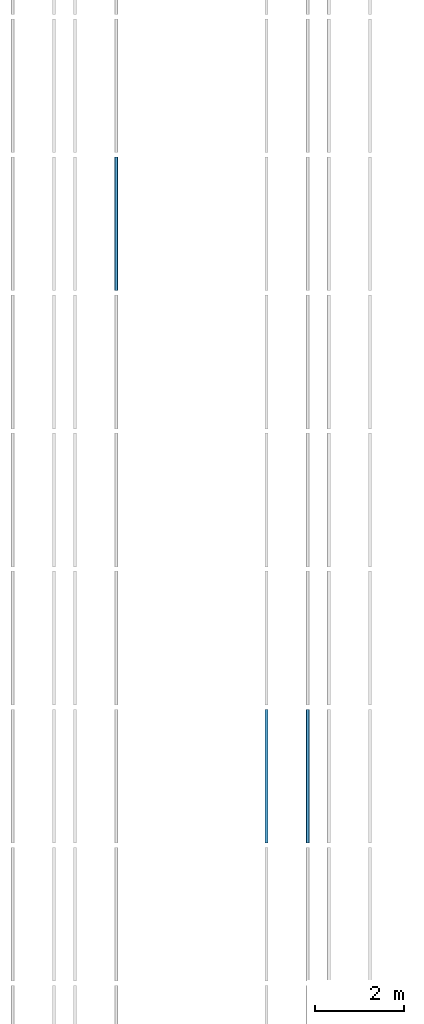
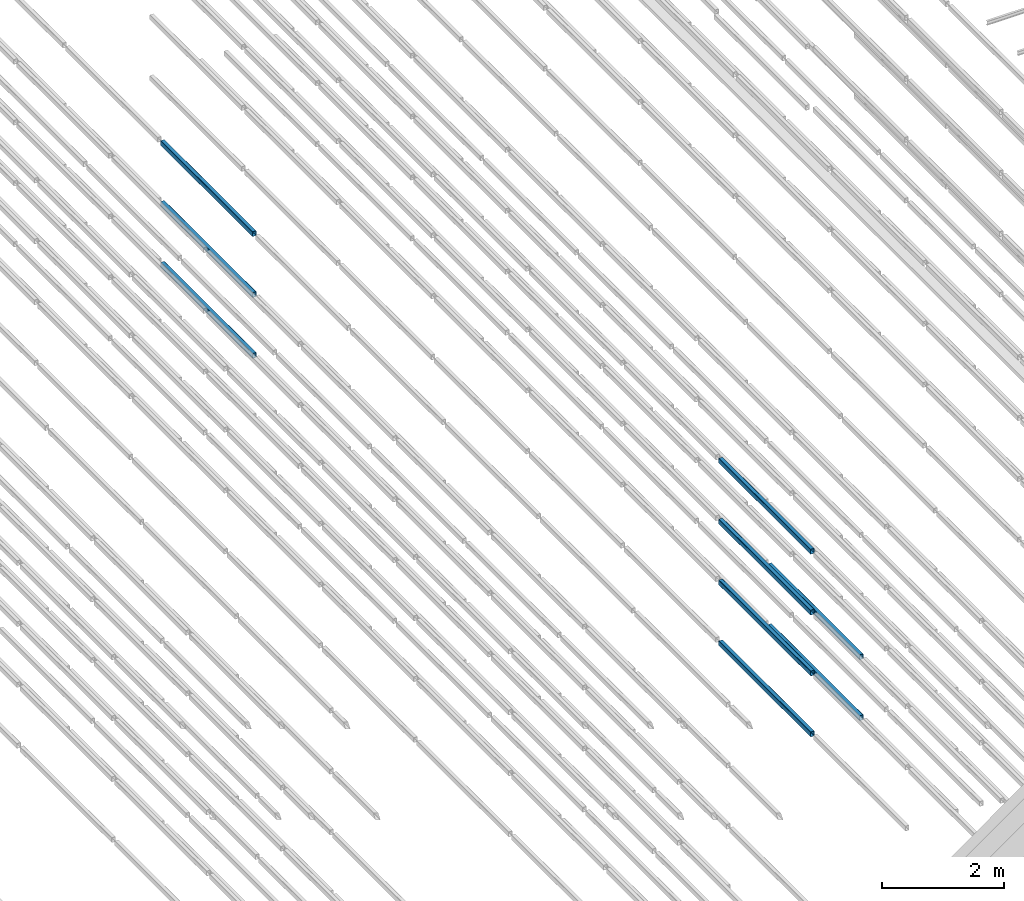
# One storey, part 68 of 290: 9 beams.
"""IFC2X3 building model written with IfcOpenShell, lengths in metres."""

from ifc_helpers import new_model, entity, si_unit, converted_unit, derived_unit, direction, frame, frame_2d, origin, place, context, subcontext, project, spatial, polyline, circle_curve, parameter, trimmed, segment, composite_curve, outline, extrude, material, type_object, element, save


model = new_model("IFC2X3")

# Units and contexts
model_context = context("Model", 3, precision=1e-05, world=origin(), true_north=direction((6.12303176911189e-17, 1.0)))
body_context = subcontext(model_context, "Body", "Model", "MODEL_VIEW")
ifc_project = project(units=[si_unit("LENGTHUNIT", "METRE"), si_unit("AREAUNIT", "SQUARE_METRE"), si_unit("VOLUMEUNIT", "CUBIC_METRE"), converted_unit("PLANEANGLEUNIT", "DEGREE", entity("IfcRatioMeasure", 0.0174532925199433), si_unit("PLANEANGLEUNIT", "RADIAN"), dimensions=[0, 0, 0, 0, 0, 0, 0]), si_unit("MASSUNIT", "GRAM", prefix="KILO"), derived_unit("MASSDENSITYUNIT", [(si_unit("MASSUNIT", "GRAM", prefix="KILO"), 1), (si_unit("LENGTHUNIT", "METRE"), -3)]), derived_unit("MOMENTOFINERTIAUNIT", [(si_unit("LENGTHUNIT", "METRE"), 4)]), si_unit("TIMEUNIT", "SECOND"), si_unit("FREQUENCYUNIT", "HERTZ"), si_unit("THERMODYNAMICTEMPERATUREUNIT", "DEGREE_CELSIUS"), derived_unit("THERMALTRANSMITTANCEUNIT", [(si_unit("MASSUNIT", "GRAM", prefix="KILO"), 1), (si_unit("THERMODYNAMICTEMPERATUREUNIT", "KELVIN"), -1), (si_unit("TIMEUNIT", "SECOND"), -3)]), derived_unit("VOLUMETRICFLOWRATEUNIT", [(si_unit("LENGTHUNIT", "METRE"), 3), (si_unit("TIMEUNIT", "SECOND"), -1)]), si_unit("ELECTRICCURRENTUNIT", "AMPERE"), si_unit("ELECTRICVOLTAGEUNIT", "VOLT"), si_unit("POWERUNIT", "WATT"), si_unit("FORCEUNIT", "NEWTON", prefix="KILO"), si_unit("ILLUMINANCEUNIT", "LUX"), si_unit("LUMINOUSFLUXUNIT", "LUMEN"), si_unit("LUMINOUSINTENSITYUNIT", "CANDELA"), derived_unit("USERDEFINED", [(si_unit("MASSUNIT", "GRAM", prefix="KILO"), -1), (si_unit("LENGTHUNIT", "METRE"), -2), (si_unit("TIMEUNIT", "SECOND"), 3), (si_unit("LUMINOUSFLUXUNIT", "LUMEN"), 1)]), derived_unit("LINEARVELOCITYUNIT", [(si_unit("LENGTHUNIT", "METRE"), 1), (si_unit("TIMEUNIT", "SECOND"), -1)]), si_unit("PRESSUREUNIT", "PASCAL"), derived_unit("USERDEFINED", [(si_unit("LENGTHUNIT", "METRE"), -2), (si_unit("MASSUNIT", "GRAM", prefix="KILO"), 1), (si_unit("TIMEUNIT", "SECOND"), -2)]), derived_unit("LINEARFORCEUNIT", [(si_unit("MASSUNIT", "GRAM", prefix="KILO"), 1), (si_unit("LENGTHUNIT", "METRE"), 1), (si_unit("TIMEUNIT", "SECOND"), -2), (si_unit("LENGTHUNIT", "METRE"), -1)]), derived_unit("PLANARFORCEUNIT", [(si_unit("MASSUNIT", "GRAM", prefix="KILO"), 1), (si_unit("LENGTHUNIT", "METRE"), 1), (si_unit("TIMEUNIT", "SECOND"), -2), (si_unit("LENGTHUNIT", "METRE"), -2)])], contexts=[model_context])

# Site, building, storey
site_placement = place(None, origin())
site = spatial("IfcSite", under=ifc_project, at=site_placement, Name="Default", CompositionType="ELEMENT")
building_placement = place(site_placement, origin())
building = spatial("IfcBuilding", under=site, at=building_placement, CompositionType="ELEMENT")
storey_placement = place(building_placement, frame((0.0, 0.0, 4.0)))
storey = spatial("IfcBuildingStorey", under=building, at=storey_placement, Name="01_OG", CompositionType="ELEMENT", Elevation=4.0)

# Beams
ifc_material = material(Name="Metall - Baustahl S235 blau")
beam_type = type_object("IfcBeamType", Name="RHS Träger (EN 10219-2):RHS 100 x 75 x 5", PredefinedType="NOTDEFINED")
beam_1_placement = place(storey_placement, frame((-185.015111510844, 30.248088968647, -1.2), z_axis=(0.0, 0.0, 1.0), x_axis=(0.0, 1.0, 0.0)))
element("IfcBeam", 1, at=beam_1_placement, inside=storey, type_object=beam_type, material=ifc_material, Name="RHS Träger (EN 10219-2):RHS 100 x 75 x 5", ObjectType="RHS Träger (EN 10219-2):RHS 100 x 75 x 5", context=body_context, shape_type="SweptSolid", body=[
    extrude(outline(composite_curve([segment(trimmed(circle_curve(frame_2d((-0.0274999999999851, -0.0400000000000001), x_axis=(1.0, 0.0)), 0.01), [parameter(180.0)], [parameter(270.0)], True, "PARAMETER"), True, "CONTINUOUS"), segment(polyline([(-0.0274999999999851, -0.05), (0.0274999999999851, -0.05)]), True, "CONTINUOUS"), segment(trimmed(circle_curve(frame_2d((0.0274999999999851, -0.0400000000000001), x_axis=(1.0, 0.0)), 0.01), [parameter(270.0)], [parameter(5.08888749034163e-14)], True, "PARAMETER"), True, "CONTINUOUS"), segment(polyline([(0.0375000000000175, -0.0400000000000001), (0.0375000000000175, 0.0400000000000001)]), True, "CONTINUOUS"), segment(trimmed(circle_curve(frame_2d((0.0274999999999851, 0.0400000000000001), x_axis=(1.0, 0.0)), 0.01), [parameter(360.0)], [parameter(89.9999999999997)], True, "PARAMETER"), True, "CONTINUOUS"), segment(polyline([(0.0274999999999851, 0.05), (-0.0274999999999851, 0.05)]), True, "CONTINUOUS"), segment(trimmed(circle_curve(frame_2d((-0.0274999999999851, 0.0400000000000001), x_axis=(1.0, 0.0)), 0.01), [parameter(90.0000000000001)], [parameter(180.0)], True, "PARAMETER"), True, "CONTINUOUS"), segment(polyline([(-0.0374999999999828, 0.0400000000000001), (-0.0374999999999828, -0.0400000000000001)]), True, "CONTINUOUS")], self_intersect=False), holes=[composite_curve([segment(polyline([(0.0274999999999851, -0.0450000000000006), (-0.0274999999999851, -0.0450000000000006)]), True, "CONTINUOUS"), segment(trimmed(circle_curve(frame_2d((-0.0274999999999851, -0.0400000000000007), x_axis=(1.0, 0.0)), 0.005), [parameter(180.0)], [parameter(270.0)], True, "PARAMETER"), False, "CONTINUOUS"), segment(polyline([(-0.0325000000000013, -0.0400000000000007), (-0.0325000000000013, 0.039999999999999)]), True, "CONTINUOUS"), segment(trimmed(circle_curve(frame_2d((-0.0274999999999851, 0.039999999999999), x_axis=(1.0, 0.0)), 0.005), [parameter(90.0000000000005)], [parameter(180.0)], True, "PARAMETER"), False, "CONTINUOUS"), segment(polyline([(-0.0274999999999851, 0.044999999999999), (0.0274999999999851, 0.044999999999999)]), True, "CONTINUOUS"), segment(trimmed(circle_curve(frame_2d((0.0274999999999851, 0.039999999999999), x_axis=(1.0, 0.0)), 0.005), [parameter(0.0)], [parameter(90.0000000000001)], True, "PARAMETER"), False, "CONTINUOUS"), segment(polyline([(0.0325000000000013, 0.039999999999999), (0.0325000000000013, -0.0400000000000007)]), True, "CONTINUOUS"), segment(trimmed(circle_curve(frame_2d((0.0274999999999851, -0.0400000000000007), x_axis=(1.0, 0.0)), 0.005), [parameter(270.0)], [parameter(4.07110999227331e-13)], True, "PARAMETER"), False, "CONTINUOUS")], self_intersect=False)]), frame((9.99999999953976e-05, 0.0375000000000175, -0.0500000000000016), z_axis=(1.0, 0.0, 0.0), x_axis=(0.0, -1.0, 0.0)), (0.0, 0.0, 1.0), 2.9998),
])
beam_2_placement = place(storey_placement, frame((-185.015111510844, 30.248088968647, 0.0150000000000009), z_axis=(0.0, 0.0, 1.0), x_axis=(0.0, 1.0, 0.0)))
element("IfcBeam", 2, at=beam_2_placement, inside=storey, type_object=beam_type, material=ifc_material, Name="RHS Träger (EN 10219-2):RHS 100 x 75 x 5", ObjectType="RHS Träger (EN 10219-2):RHS 100 x 75 x 5", context=body_context, shape_type="SweptSolid", body=[
    extrude(outline(composite_curve([segment(trimmed(circle_curve(frame_2d((-0.0274999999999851, -0.0400000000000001), x_axis=(1.0, 0.0)), 0.01), [parameter(180.0)], [parameter(270.0)], True, "PARAMETER"), True, "CONTINUOUS"), segment(polyline([(-0.0274999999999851, -0.05), (0.0274999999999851, -0.05)]), True, "CONTINUOUS"), segment(trimmed(circle_curve(frame_2d((0.0274999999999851, -0.0400000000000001), x_axis=(1.0, 0.0)), 0.01), [parameter(270.0)], [parameter(5.08888749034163e-14)], True, "PARAMETER"), True, "CONTINUOUS"), segment(polyline([(0.0375000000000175, -0.0400000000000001), (0.0375000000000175, 0.0400000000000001)]), True, "CONTINUOUS"), segment(trimmed(circle_curve(frame_2d((0.0274999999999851, 0.0400000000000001), x_axis=(1.0, 0.0)), 0.01), [parameter(360.0)], [parameter(89.9999999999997)], True, "PARAMETER"), True, "CONTINUOUS"), segment(polyline([(0.0274999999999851, 0.05), (-0.0274999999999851, 0.05)]), True, "CONTINUOUS"), segment(trimmed(circle_curve(frame_2d((-0.0274999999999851, 0.0400000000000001), x_axis=(1.0, 0.0)), 0.01), [parameter(90.0000000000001)], [parameter(180.0)], True, "PARAMETER"), True, "CONTINUOUS"), segment(polyline([(-0.0374999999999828, 0.0400000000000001), (-0.0374999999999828, -0.0400000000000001)]), True, "CONTINUOUS")], self_intersect=False), holes=[composite_curve([segment(polyline([(0.0274999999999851, -0.0450000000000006), (-0.0274999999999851, -0.0450000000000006)]), True, "CONTINUOUS"), segment(trimmed(circle_curve(frame_2d((-0.0274999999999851, -0.0400000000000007), x_axis=(1.0, 0.0)), 0.005), [parameter(180.0)], [parameter(270.0)], True, "PARAMETER"), False, "CONTINUOUS"), segment(polyline([(-0.0325000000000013, -0.0400000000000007), (-0.0325000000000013, 0.039999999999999)]), True, "CONTINUOUS"), segment(trimmed(circle_curve(frame_2d((-0.0274999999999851, 0.039999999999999), x_axis=(1.0, 0.0)), 0.005), [parameter(90.0000000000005)], [parameter(180.0)], True, "PARAMETER"), False, "CONTINUOUS"), segment(polyline([(-0.0274999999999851, 0.044999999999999), (0.0274999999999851, 0.044999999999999)]), True, "CONTINUOUS"), segment(trimmed(circle_curve(frame_2d((0.0274999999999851, 0.039999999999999), x_axis=(1.0, 0.0)), 0.005), [parameter(0.0)], [parameter(90.0000000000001)], True, "PARAMETER"), False, "CONTINUOUS"), segment(polyline([(0.0325000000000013, 0.039999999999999), (0.0325000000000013, -0.0400000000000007)]), True, "CONTINUOUS"), segment(trimmed(circle_curve(frame_2d((0.0274999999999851, -0.0400000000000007), x_axis=(1.0, 0.0)), 0.005), [parameter(270.0)], [parameter(4.07110999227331e-13)], True, "PARAMETER"), False, "CONTINUOUS")], self_intersect=False)]), frame((9.9999999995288e-05, 0.0375000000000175, -0.0500000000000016), z_axis=(1.0, 0.0, 0.0), x_axis=(0.0, -1.0, 0.0)), (0.0, 0.0, 1.0), 2.9998),
])
beam_3_placement = place(storey_placement, frame((-185.015111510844, 30.248088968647, 1.23), z_axis=(0.0, 0.0, 1.0), x_axis=(0.0, 1.0, 0.0)))
element("IfcBeam", 3, at=beam_3_placement, inside=storey, type_object=beam_type, material=ifc_material, Name="RHS Träger (EN 10219-2):RHS 100 x 75 x 5", ObjectType="RHS Träger (EN 10219-2):RHS 100 x 75 x 5", context=body_context, shape_type="SweptSolid", body=[
    extrude(outline(composite_curve([segment(trimmed(circle_curve(frame_2d((-0.0274999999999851, -0.0399999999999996), x_axis=(1.0, 0.0)), 0.01), [parameter(180.0)], [parameter(270.0)], True, "PARAMETER"), True, "CONTINUOUS"), segment(polyline([(-0.0274999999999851, -0.0499999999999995), (0.0274999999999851, -0.0499999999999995)]), True, "CONTINUOUS"), segment(trimmed(circle_curve(frame_2d((0.0274999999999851, -0.0399999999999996), x_axis=(1.0, 0.0)), 0.01), [parameter(270.0)], [parameter(5.08888749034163e-14)], True, "PARAMETER"), True, "CONTINUOUS"), segment(polyline([(0.0375000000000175, -0.0399999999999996), (0.0375000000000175, 0.0399999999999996)]), True, "CONTINUOUS"), segment(trimmed(circle_curve(frame_2d((0.0274999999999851, 0.0399999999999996), x_axis=(1.0, 0.0)), 0.01), [parameter(360.0)], [parameter(89.9999999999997)], True, "PARAMETER"), True, "CONTINUOUS"), segment(polyline([(0.0274999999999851, 0.0500000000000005), (-0.0274999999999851, 0.0500000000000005)]), True, "CONTINUOUS"), segment(trimmed(circle_curve(frame_2d((-0.0274999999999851, 0.0399999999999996), x_axis=(1.0, 0.0)), 0.01), [parameter(90.0000000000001)], [parameter(180.0)], True, "PARAMETER"), True, "CONTINUOUS"), segment(polyline([(-0.0374999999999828, 0.0399999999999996), (-0.0374999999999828, -0.0399999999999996)]), True, "CONTINUOUS")], self_intersect=False), holes=[composite_curve([segment(polyline([(0.0274999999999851, -0.0450000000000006), (-0.0274999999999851, -0.0450000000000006)]), True, "CONTINUOUS"), segment(trimmed(circle_curve(frame_2d((-0.0274999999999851, -0.0400000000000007), x_axis=(1.0, 0.0)), 0.005), [parameter(180.0)], [parameter(270.0)], True, "PARAMETER"), False, "CONTINUOUS"), segment(polyline([(-0.0325000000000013, -0.0400000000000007), (-0.0325000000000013, 0.0399999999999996)]), True, "CONTINUOUS"), segment(trimmed(circle_curve(frame_2d((-0.0274999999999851, 0.0399999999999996), x_axis=(1.0, 0.0)), 0.005), [parameter(90.0000000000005)], [parameter(180.0)], True, "PARAMETER"), False, "CONTINUOUS"), segment(polyline([(-0.0274999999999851, 0.0449999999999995), (0.0274999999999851, 0.0449999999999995)]), True, "CONTINUOUS"), segment(trimmed(circle_curve(frame_2d((0.0274999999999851, 0.0399999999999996), x_axis=(1.0, 0.0)), 0.005), [parameter(0.0)], [parameter(90.0000000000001)], True, "PARAMETER"), False, "CONTINUOUS"), segment(polyline([(0.0325000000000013, 0.0399999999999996), (0.0325000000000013, -0.0400000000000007)]), True, "CONTINUOUS"), segment(trimmed(circle_curve(frame_2d((0.0274999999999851, -0.0400000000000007), x_axis=(1.0, 0.0)), 0.005), [parameter(270.0)], [parameter(4.07110999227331e-13)], True, "PARAMETER"), False, "CONTINUOUS")], self_intersect=False)]), frame((9.99999999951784e-05, 0.0375000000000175, -0.0500000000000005), z_axis=(1.0, 0.0, 0.0), x_axis=(0.0, -1.0, 0.0)), (0.0, 0.0, 1.0), 2.9998),
])
beam_4_placement = place(storey_placement, frame((-185.015111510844, 30.248088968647, 2.445), z_axis=(0.0, 0.0, 1.0), x_axis=(0.0, 1.0, 0.0)))
element("IfcBeam", 4, at=beam_4_placement, inside=storey, type_object=beam_type, material=ifc_material, Name="RHS Träger (EN 10219-2):RHS 100 x 75 x 5", ObjectType="RHS Träger (EN 10219-2):RHS 100 x 75 x 5", context=body_context, shape_type="SweptSolid", body=[
    extrude(outline(composite_curve([segment(trimmed(circle_curve(frame_2d((-0.0274999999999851, -0.0399999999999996), x_axis=(1.0, 0.0)), 0.01), [parameter(180.0)], [parameter(270.0)], True, "PARAMETER"), True, "CONTINUOUS"), segment(polyline([(-0.0274999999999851, -0.0499999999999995), (0.0274999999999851, -0.0499999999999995)]), True, "CONTINUOUS"), segment(trimmed(circle_curve(frame_2d((0.0274999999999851, -0.0399999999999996), x_axis=(1.0, 0.0)), 0.01), [parameter(270.0)], [parameter(5.08888749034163e-14)], True, "PARAMETER"), True, "CONTINUOUS"), segment(polyline([(0.0375000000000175, -0.0399999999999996), (0.0375000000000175, 0.0399999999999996)]), True, "CONTINUOUS"), segment(trimmed(circle_curve(frame_2d((0.0274999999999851, 0.0399999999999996), x_axis=(1.0, 0.0)), 0.01), [parameter(360.0)], [parameter(89.9999999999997)], True, "PARAMETER"), True, "CONTINUOUS"), segment(polyline([(0.0274999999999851, 0.0500000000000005), (-0.0274999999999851, 0.0500000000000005)]), True, "CONTINUOUS"), segment(trimmed(circle_curve(frame_2d((-0.0274999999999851, 0.0399999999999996), x_axis=(1.0, 0.0)), 0.01), [parameter(90.0000000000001)], [parameter(180.0)], True, "PARAMETER"), True, "CONTINUOUS"), segment(polyline([(-0.0374999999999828, 0.0399999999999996), (-0.0374999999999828, -0.0399999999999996)]), True, "CONTINUOUS")], self_intersect=False), holes=[composite_curve([segment(polyline([(0.0274999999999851, -0.0450000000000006), (-0.0274999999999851, -0.0450000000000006)]), True, "CONTINUOUS"), segment(trimmed(circle_curve(frame_2d((-0.0274999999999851, -0.0400000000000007), x_axis=(1.0, 0.0)), 0.005), [parameter(180.0)], [parameter(270.0)], True, "PARAMETER"), False, "CONTINUOUS"), segment(polyline([(-0.0325000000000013, -0.0400000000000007), (-0.0325000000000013, 0.0399999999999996)]), True, "CONTINUOUS"), segment(trimmed(circle_curve(frame_2d((-0.0274999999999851, 0.0399999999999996), x_axis=(1.0, 0.0)), 0.005), [parameter(90.0000000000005)], [parameter(180.0)], True, "PARAMETER"), False, "CONTINUOUS"), segment(polyline([(-0.0274999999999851, 0.0449999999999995), (0.0274999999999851, 0.0449999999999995)]), True, "CONTINUOUS"), segment(trimmed(circle_curve(frame_2d((0.0274999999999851, 0.0399999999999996), x_axis=(1.0, 0.0)), 0.005), [parameter(0.0)], [parameter(90.0000000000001)], True, "PARAMETER"), False, "CONTINUOUS"), segment(polyline([(0.0325000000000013, 0.0399999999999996), (0.0325000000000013, -0.0400000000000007)]), True, "CONTINUOUS"), segment(trimmed(circle_curve(frame_2d((0.0274999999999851, -0.0400000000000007), x_axis=(1.0, 0.0)), 0.005), [parameter(270.0)], [parameter(4.07110999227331e-13)], True, "PARAMETER"), False, "CONTINUOUS")], self_intersect=False)]), frame((9.99999999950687e-05, 0.0375000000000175, -0.0500000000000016), z_axis=(1.0, 0.0, 0.0), x_axis=(0.0, -1.0, 0.0)), (0.0, 0.0, 1.0), 2.9998),
])
beam_5_placement = place(storey_placement, frame((-184.165111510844, 30.248088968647, -1.2), z_axis=(0.0, 0.0, 1.0), x_axis=(0.0, 1.0, 0.0)))
element("IfcBeam", 5, at=beam_5_placement, inside=storey, type_object=beam_type, material=ifc_material, Name="RHS Träger (EN 10219-2):RHS 100 x 75 x 5", ObjectType="RHS Träger (EN 10219-2):RHS 100 x 75 x 5", context=body_context, shape_type="SweptSolid", body=[
    extrude(outline(composite_curve([segment(polyline([(-0.0400000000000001, -0.0374999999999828), (0.0400000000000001, -0.0374999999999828)]), True, "CONTINUOUS"), segment(trimmed(circle_curve(frame_2d((0.0400000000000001, -0.0274999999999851), x_axis=(0.0, 1.0)), 0.01), [parameter(180.0)], [parameter(270.0)], True, "PARAMETER"), True, "CONTINUOUS"), segment(polyline([(0.05, -0.0274999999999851), (0.05, 0.0274999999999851)]), True, "CONTINUOUS"), segment(trimmed(circle_curve(frame_2d((0.0400000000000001, 0.0274999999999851), x_axis=(0.0, 1.0)), 0.01), [parameter(270.0)], [parameter(4.07110999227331e-13)], True, "PARAMETER"), True, "CONTINUOUS"), segment(polyline([(0.0400000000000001, 0.0375000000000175), (-0.0400000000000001, 0.0375000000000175)]), True, "CONTINUOUS"), segment(trimmed(circle_curve(frame_2d((-0.0400000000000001, 0.0274999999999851), x_axis=(0.0, 1.0)), 0.01), [parameter(360.0)], [parameter(90.0000000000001)], True, "PARAMETER"), True, "CONTINUOUS"), segment(polyline([(-0.05, 0.0274999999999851), (-0.05, -0.0274999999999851)]), True, "CONTINUOUS"), segment(trimmed(circle_curve(frame_2d((-0.0400000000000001, -0.0274999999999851), x_axis=(0.0, 1.0)), 0.01), [parameter(90.0000000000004)], [parameter(180.0)], True, "PARAMETER"), True, "CONTINUOUS")], self_intersect=False), holes=[composite_curve([segment(trimmed(circle_curve(frame_2d((-0.0400000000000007, 0.0274999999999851), x_axis=(0.0, 1.0)), 0.005), [parameter(360.0)], [parameter(89.9999999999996)], True, "PARAMETER"), False, "CONTINUOUS"), segment(polyline([(-0.0400000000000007, 0.0325000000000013), (0.039999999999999, 0.0325000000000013)]), True, "CONTINUOUS"), segment(trimmed(circle_curve(frame_2d((0.039999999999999, 0.0274999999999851), x_axis=(0.0, 1.0)), 0.005), [parameter(270.0)], [parameter(0.0)], True, "PARAMETER"), False, "CONTINUOUS"), segment(polyline([(0.044999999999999, 0.0274999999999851), (0.044999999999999, -0.0274999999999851)]), True, "CONTINUOUS"), segment(trimmed(circle_curve(frame_2d((0.039999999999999, -0.0274999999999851), x_axis=(0.0, 1.0)), 0.005), [parameter(180.0)], [parameter(269.999999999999)], True, "PARAMETER"), False, "CONTINUOUS"), segment(polyline([(0.039999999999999, -0.0325000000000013), (-0.0400000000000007, -0.0325000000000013)]), True, "CONTINUOUS"), segment(trimmed(circle_curve(frame_2d((-0.0400000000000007, -0.0274999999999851), x_axis=(0.0, 1.0)), 0.005), [parameter(90.0000000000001)], [parameter(180.0)], True, "PARAMETER"), False, "CONTINUOUS"), segment(polyline([(-0.0450000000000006, -0.0274999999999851), (-0.0450000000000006, 0.0274999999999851)]), True, "CONTINUOUS")], self_intersect=False)]), frame((9.99999999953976e-05, -0.0375000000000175, -0.0500000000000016), z_axis=(1.0, 0.0, 0.0), x_axis=(0.0, 0.0, -1.0)), (0.0, 0.0, 1.0), 2.9998),
])
beam_6_placement = place(storey_placement, frame((-184.165111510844, 30.248088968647, 0.0150000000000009), z_axis=(0.0, 0.0, 1.0), x_axis=(0.0, 1.0, 0.0)))
element("IfcBeam", 6, at=beam_6_placement, inside=storey, type_object=beam_type, material=ifc_material, Name="RHS Träger (EN 10219-2):RHS 100 x 75 x 5", ObjectType="RHS Träger (EN 10219-2):RHS 100 x 75 x 5", context=body_context, shape_type="SweptSolid", body=[
    extrude(outline(composite_curve([segment(polyline([(-0.0400000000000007, -0.0374999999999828), (0.0399999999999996, -0.0374999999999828)]), True, "CONTINUOUS"), segment(trimmed(circle_curve(frame_2d((0.0399999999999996, -0.0274999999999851), x_axis=(0.0, 1.0)), 0.01), [parameter(180.0)], [parameter(270.0)], True, "PARAMETER"), True, "CONTINUOUS"), segment(polyline([(0.0499999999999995, -0.0274999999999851), (0.0499999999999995, 0.0274999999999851)]), True, "CONTINUOUS"), segment(trimmed(circle_curve(frame_2d((0.0399999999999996, 0.0274999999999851), x_axis=(0.0, 1.0)), 0.01), [parameter(270.0)], [parameter(4.07110999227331e-13)], True, "PARAMETER"), True, "CONTINUOUS"), segment(polyline([(0.0399999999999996, 0.0375000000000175), (-0.0400000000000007, 0.0375000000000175)]), True, "CONTINUOUS"), segment(trimmed(circle_curve(frame_2d((-0.0400000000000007, 0.0274999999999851), x_axis=(0.0, 1.0)), 0.01), [parameter(360.0)], [parameter(90.0000000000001)], True, "PARAMETER"), True, "CONTINUOUS"), segment(polyline([(-0.0500000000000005, 0.0274999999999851), (-0.0500000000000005, -0.0274999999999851)]), True, "CONTINUOUS"), segment(trimmed(circle_curve(frame_2d((-0.0400000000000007, -0.0274999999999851), x_axis=(0.0, 1.0)), 0.01), [parameter(90.0000000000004)], [parameter(180.0)], True, "PARAMETER"), True, "CONTINUOUS")], self_intersect=False), holes=[composite_curve([segment(trimmed(circle_curve(frame_2d((-0.0400000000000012, 0.0274999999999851), x_axis=(0.0, 1.0)), 0.005), [parameter(360.0)], [parameter(89.9999999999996)], True, "PARAMETER"), False, "CONTINUOUS"), segment(polyline([(-0.0400000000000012, 0.0325000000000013), (0.0399999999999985, 0.0325000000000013)]), True, "CONTINUOUS"), segment(trimmed(circle_curve(frame_2d((0.0399999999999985, 0.0274999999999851), x_axis=(0.0, 1.0)), 0.005), [parameter(270.0)], [parameter(0.0)], True, "PARAMETER"), False, "CONTINUOUS"), segment(polyline([(0.0449999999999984, 0.0274999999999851), (0.0449999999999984, -0.0274999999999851)]), True, "CONTINUOUS"), segment(trimmed(circle_curve(frame_2d((0.0399999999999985, -0.0274999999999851), x_axis=(0.0, 1.0)), 0.005), [parameter(180.0)], [parameter(269.999999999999)], True, "PARAMETER"), False, "CONTINUOUS"), segment(polyline([(0.0399999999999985, -0.0325000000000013), (-0.0400000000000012, -0.0325000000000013)]), True, "CONTINUOUS"), segment(trimmed(circle_curve(frame_2d((-0.0400000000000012, -0.0274999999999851), x_axis=(0.0, 1.0)), 0.005), [parameter(90.0000000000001)], [parameter(180.0)], True, "PARAMETER"), False, "CONTINUOUS"), segment(polyline([(-0.0450000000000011, -0.0274999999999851), (-0.0450000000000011, 0.0274999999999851)]), True, "CONTINUOUS")], self_intersect=False)]), frame((9.9999999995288e-05, -0.0375000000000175, -0.0500000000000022), z_axis=(1.0, 0.0, 0.0), x_axis=(0.0, 0.0, -1.0)), (0.0, 0.0, 1.0), 2.9998),
])
beam_7_placement = place(storey_placement, frame((-188.465111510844, 42.648088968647, 0.0150000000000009), z_axis=(0.0, 0.0, 1.0), x_axis=(0.0, 1.0, 0.0)))
element("IfcBeam", 7, at=beam_7_placement, inside=storey, type_object=beam_type, material=ifc_material, Name="RHS Träger (EN 10219-2):RHS 100 x 75 x 5", ObjectType="RHS Träger (EN 10219-2):RHS 100 x 75 x 5", context=body_context, shape_type="SweptSolid", body=[
    extrude(outline(composite_curve([segment(polyline([(-0.0400000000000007, -0.0374999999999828), (0.0399999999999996, -0.0374999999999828)]), True, "CONTINUOUS"), segment(trimmed(circle_curve(frame_2d((0.0399999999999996, -0.0274999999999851), x_axis=(0.0, 1.0)), 0.01), [parameter(180.0)], [parameter(270.0)], True, "PARAMETER"), True, "CONTINUOUS"), segment(polyline([(0.0499999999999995, -0.0274999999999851), (0.0499999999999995, 0.0274999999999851)]), True, "CONTINUOUS"), segment(trimmed(circle_curve(frame_2d((0.0399999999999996, 0.0274999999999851), x_axis=(0.0, 1.0)), 0.01), [parameter(270.0)], [parameter(4.07110999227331e-13)], True, "PARAMETER"), True, "CONTINUOUS"), segment(polyline([(0.0399999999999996, 0.0375000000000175), (-0.0400000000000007, 0.0375000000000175)]), True, "CONTINUOUS"), segment(trimmed(circle_curve(frame_2d((-0.0400000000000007, 0.0274999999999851), x_axis=(0.0, 1.0)), 0.01), [parameter(360.0)], [parameter(90.0000000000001)], True, "PARAMETER"), True, "CONTINUOUS"), segment(polyline([(-0.0500000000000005, 0.0274999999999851), (-0.0500000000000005, -0.0274999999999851)]), True, "CONTINUOUS"), segment(trimmed(circle_curve(frame_2d((-0.0400000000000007, -0.0274999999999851), x_axis=(0.0, 1.0)), 0.01), [parameter(90.0000000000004)], [parameter(180.0)], True, "PARAMETER"), True, "CONTINUOUS")], self_intersect=False), holes=[composite_curve([segment(trimmed(circle_curve(frame_2d((-0.0400000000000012, 0.0274999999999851), x_axis=(0.0, 1.0)), 0.005), [parameter(360.0)], [parameter(89.9999999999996)], True, "PARAMETER"), False, "CONTINUOUS"), segment(polyline([(-0.0400000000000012, 0.0325000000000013), (0.0399999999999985, 0.0325000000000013)]), True, "CONTINUOUS"), segment(trimmed(circle_curve(frame_2d((0.0399999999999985, 0.0274999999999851), x_axis=(0.0, 1.0)), 0.005), [parameter(270.0)], [parameter(0.0)], True, "PARAMETER"), False, "CONTINUOUS"), segment(polyline([(0.0449999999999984, 0.0274999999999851), (0.0449999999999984, -0.0274999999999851)]), True, "CONTINUOUS"), segment(trimmed(circle_curve(frame_2d((0.0399999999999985, -0.0274999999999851), x_axis=(0.0, 1.0)), 0.005), [parameter(180.0)], [parameter(269.999999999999)], True, "PARAMETER"), False, "CONTINUOUS"), segment(polyline([(0.0399999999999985, -0.0325000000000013), (-0.0400000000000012, -0.0325000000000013)]), True, "CONTINUOUS"), segment(trimmed(circle_curve(frame_2d((-0.0400000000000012, -0.0274999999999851), x_axis=(0.0, 1.0)), 0.005), [parameter(90.0000000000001)], [parameter(180.0)], True, "PARAMETER"), False, "CONTINUOUS"), segment(polyline([(-0.0450000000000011, -0.0274999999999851), (-0.0450000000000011, 0.0274999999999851)]), True, "CONTINUOUS")], self_intersect=False)]), frame((0.000100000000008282, -0.0375000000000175, -0.0500000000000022), z_axis=(1.0, 0.0, 0.0), x_axis=(0.0, 0.0, -1.0)), (0.0, 0.0, 1.0), 2.99979999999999),
])
beam_8_placement = place(storey_placement, frame((-188.465111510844, 42.648088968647, 1.23), z_axis=(0.0, 0.0, 1.0), x_axis=(0.0, 1.0, 0.0)))
element("IfcBeam", 8, at=beam_8_placement, inside=storey, type_object=beam_type, material=ifc_material, Name="RHS Träger (EN 10219-2):RHS 100 x 75 x 5", ObjectType="RHS Träger (EN 10219-2):RHS 100 x 75 x 5", context=body_context, shape_type="SweptSolid", body=[
    extrude(outline(composite_curve([segment(polyline([(-0.0399999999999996, -0.0374999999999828), (0.0399999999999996, -0.0374999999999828)]), True, "CONTINUOUS"), segment(trimmed(circle_curve(frame_2d((0.0399999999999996, -0.0274999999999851), x_axis=(0.0, 1.0)), 0.01), [parameter(180.0)], [parameter(270.0)], True, "PARAMETER"), True, "CONTINUOUS"), segment(polyline([(0.0500000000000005, -0.0274999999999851), (0.0500000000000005, 0.0274999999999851)]), True, "CONTINUOUS"), segment(trimmed(circle_curve(frame_2d((0.0399999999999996, 0.0274999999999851), x_axis=(0.0, 1.0)), 0.01), [parameter(270.0)], [parameter(4.07110999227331e-13)], True, "PARAMETER"), True, "CONTINUOUS"), segment(polyline([(0.0399999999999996, 0.0375000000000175), (-0.0399999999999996, 0.0375000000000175)]), True, "CONTINUOUS"), segment(trimmed(circle_curve(frame_2d((-0.0399999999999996, 0.0274999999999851), x_axis=(0.0, 1.0)), 0.01), [parameter(360.0)], [parameter(90.0000000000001)], True, "PARAMETER"), True, "CONTINUOUS"), segment(polyline([(-0.0499999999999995, 0.0274999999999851), (-0.0499999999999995, -0.0274999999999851)]), True, "CONTINUOUS"), segment(trimmed(circle_curve(frame_2d((-0.0399999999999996, -0.0274999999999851), x_axis=(0.0, 1.0)), 0.01), [parameter(90.0000000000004)], [parameter(180.0)], True, "PARAMETER"), True, "CONTINUOUS")], self_intersect=False), holes=[composite_curve([segment(trimmed(circle_curve(frame_2d((-0.0400000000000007, 0.0274999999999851), x_axis=(0.0, 1.0)), 0.005), [parameter(360.0)], [parameter(89.9999999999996)], True, "PARAMETER"), False, "CONTINUOUS"), segment(polyline([(-0.0400000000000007, 0.0325000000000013), (0.0399999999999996, 0.0325000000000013)]), True, "CONTINUOUS"), segment(trimmed(circle_curve(frame_2d((0.0399999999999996, 0.0274999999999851), x_axis=(0.0, 1.0)), 0.005), [parameter(270.0)], [parameter(0.0)], True, "PARAMETER"), False, "CONTINUOUS"), segment(polyline([(0.0449999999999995, 0.0274999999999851), (0.0449999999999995, -0.0274999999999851)]), True, "CONTINUOUS"), segment(trimmed(circle_curve(frame_2d((0.0399999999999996, -0.0274999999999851), x_axis=(0.0, 1.0)), 0.005), [parameter(180.0)], [parameter(269.999999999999)], True, "PARAMETER"), False, "CONTINUOUS"), segment(polyline([(0.0399999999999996, -0.0325000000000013), (-0.0400000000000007, -0.0325000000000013)]), True, "CONTINUOUS"), segment(trimmed(circle_curve(frame_2d((-0.0400000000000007, -0.0274999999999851), x_axis=(0.0, 1.0)), 0.005), [parameter(90.0000000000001)], [parameter(180.0)], True, "PARAMETER"), False, "CONTINUOUS"), segment(polyline([(-0.0450000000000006, -0.0274999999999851), (-0.0450000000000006, 0.0274999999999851)]), True, "CONTINUOUS")], self_intersect=False)]), frame((0.000100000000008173, -0.0375000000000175, -0.0500000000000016), z_axis=(1.0, 0.0, 0.0), x_axis=(0.0, 0.0, -1.0)), (0.0, 0.0, 1.0), 2.99979999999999),
])
beam_9_placement = place(storey_placement, frame((-188.465111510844, 42.648088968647, 2.445), z_axis=(0.0, 0.0, 1.0), x_axis=(0.0, 1.0, 0.0)))
element("IfcBeam", 9, at=beam_9_placement, inside=storey, type_object=beam_type, material=ifc_material, Name="RHS Träger (EN 10219-2):RHS 100 x 75 x 5", ObjectType="RHS Träger (EN 10219-2):RHS 100 x 75 x 5", context=body_context, shape_type="SweptSolid", body=[
    extrude(outline(composite_curve([segment(polyline([(-0.0399999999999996, -0.0374999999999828), (0.0399999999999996, -0.0374999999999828)]), True, "CONTINUOUS"), segment(trimmed(circle_curve(frame_2d((0.0399999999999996, -0.0274999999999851), x_axis=(0.0, 1.0)), 0.01), [parameter(180.0)], [parameter(270.0)], True, "PARAMETER"), True, "CONTINUOUS"), segment(polyline([(0.0500000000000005, -0.0274999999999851), (0.0500000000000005, 0.0274999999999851)]), True, "CONTINUOUS"), segment(trimmed(circle_curve(frame_2d((0.0399999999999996, 0.0274999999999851), x_axis=(0.0, 1.0)), 0.01), [parameter(270.0)], [parameter(4.07110999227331e-13)], True, "PARAMETER"), True, "CONTINUOUS"), segment(polyline([(0.0399999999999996, 0.0375000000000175), (-0.0399999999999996, 0.0375000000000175)]), True, "CONTINUOUS"), segment(trimmed(circle_curve(frame_2d((-0.0399999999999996, 0.0274999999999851), x_axis=(0.0, 1.0)), 0.01), [parameter(360.0)], [parameter(90.0000000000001)], True, "PARAMETER"), True, "CONTINUOUS"), segment(polyline([(-0.0499999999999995, 0.0274999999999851), (-0.0499999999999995, -0.0274999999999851)]), True, "CONTINUOUS"), segment(trimmed(circle_curve(frame_2d((-0.0399999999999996, -0.0274999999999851), x_axis=(0.0, 1.0)), 0.01), [parameter(90.0000000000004)], [parameter(180.0)], True, "PARAMETER"), True, "CONTINUOUS")], self_intersect=False), holes=[composite_curve([segment(trimmed(circle_curve(frame_2d((-0.0400000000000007, 0.0274999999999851), x_axis=(0.0, 1.0)), 0.005), [parameter(360.0)], [parameter(89.9999999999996)], True, "PARAMETER"), False, "CONTINUOUS"), segment(polyline([(-0.0400000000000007, 0.0325000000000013), (0.0399999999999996, 0.0325000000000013)]), True, "CONTINUOUS"), segment(trimmed(circle_curve(frame_2d((0.0399999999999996, 0.0274999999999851), x_axis=(0.0, 1.0)), 0.005), [parameter(270.0)], [parameter(0.0)], True, "PARAMETER"), False, "CONTINUOUS"), segment(polyline([(0.0449999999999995, 0.0274999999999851), (0.0449999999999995, -0.0274999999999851)]), True, "CONTINUOUS"), segment(trimmed(circle_curve(frame_2d((0.0399999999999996, -0.0274999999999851), x_axis=(0.0, 1.0)), 0.005), [parameter(180.0)], [parameter(269.999999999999)], True, "PARAMETER"), False, "CONTINUOUS"), segment(polyline([(0.0399999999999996, -0.0325000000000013), (-0.0400000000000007, -0.0325000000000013)]), True, "CONTINUOUS"), segment(trimmed(circle_curve(frame_2d((-0.0400000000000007, -0.0274999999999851), x_axis=(0.0, 1.0)), 0.005), [parameter(90.0000000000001)], [parameter(180.0)], True, "PARAMETER"), False, "CONTINUOUS"), segment(polyline([(-0.0450000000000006, -0.0274999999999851), (-0.0450000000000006, 0.0274999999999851)]), True, "CONTINUOUS")], self_intersect=False)]), frame((0.000100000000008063, -0.0375000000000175, -0.0500000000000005), z_axis=(1.0, 0.0, 0.0), x_axis=(0.0, 0.0, -1.0)), (0.0, 0.0, 1.0), 2.99979999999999),
])

save(model, "model.ifc")
